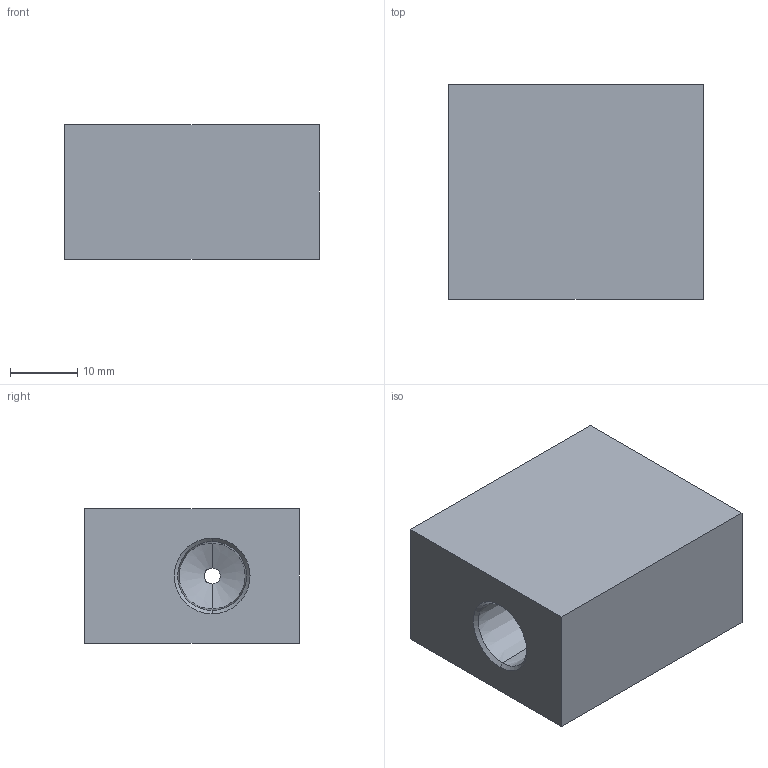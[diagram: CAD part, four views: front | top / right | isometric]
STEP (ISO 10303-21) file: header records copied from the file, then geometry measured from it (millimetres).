
FILE_DESCRIPTION (( 'STEP AP203' ), '1' );
FILE_NAME ('FTNTS02.STEP', '2026-06-26T01:42:04', ( 'USER' ), ( '' ), 'SwSTEP 2.0', 'SolidWorks 2023', '' );
FILE_SCHEMA (( 'CONFIG_CONTROL_DESIGN' ));
Length unit declared in the file: millimetre
Products named in the file (1): FTNTS02
Bounding box: 38 x 32 x 20 mm (x, y, z)
Volume: 21530.2 mm3; surface area: 6340.6 mm2
Topology: 1 solids, 1 shells, 35 faces, 78 edges, 44 vertices
Faces by surface type: cone 18, cylinder 11, plane 6
Entity records: 1037 total; most frequent: DIRECTION 178, CARTESIAN_POINT 170, ORIENTED_EDGE 156, EDGE_CURVE 78, AXIS2_PLACEMENT_3D 68, VERTEX_POINT 44, LINE 42, VECTOR 42
